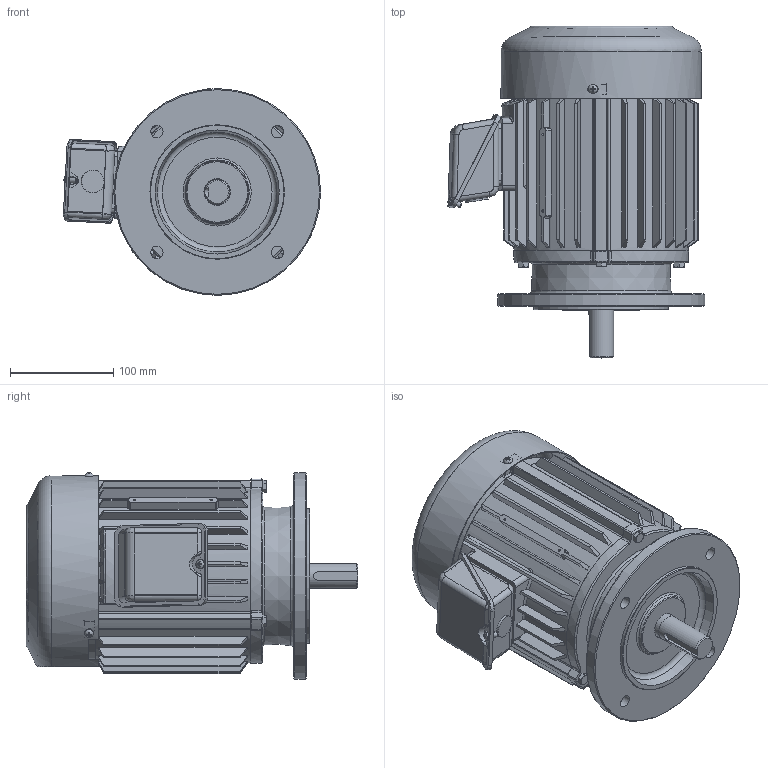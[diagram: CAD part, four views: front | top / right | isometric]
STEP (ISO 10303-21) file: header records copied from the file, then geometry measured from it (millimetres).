
FILE_DESCRIPTION(/* description */ ('Unknown'),/* implementation_level */ '2;1');
FILE_NAME(/* name */ '1-SMA-33828_외형도(160DIA)',/* time_stamp */ '2026-07-24T08:41:58+09:00',/* author */ ('Unknown'),/* organization */ ('Unknown'),/* preprocessor_version */ 'ST-DEVELOPER v16',/* originating_system */ 'DEX',/* authorisation */ $);
FILE_SCHEMA (('AUTOMOTIVE_DESIGN {1 0 10303 214 3 1 1}'));
Products named in the file (17): 1-SMA-33828_¿ÜÇüµµ(160DIxÆÖÄ³(; 2-SMA-30861_FRAME(160DIA); 3-SMA-30857_擅粽塭鰍(160D; 4-SMA-30854_µÚºê¶óÄÏ(160D´¾|·Ï(; 5-SMA-30862_SHAFT(160DIA); 6-SMA-31242_FAN(160DIA); 7-SMA-30643_FAN COVER(160DIA); 幫陝獐お M6x1x; 菅斬 褊濠 M5x0.8x; SMA33038,33039_攪嘐割 ; 8-SMA-33038_T-BOX(»ó)(120,140DIA)‘]j; 9-SMA-33039_T-BOX(ж)(120~140DIA); T-BOX 憶っ(120~160DIA; T-BOX 歜衛 馨檜綰斜楠萄(120~; 褊濠 菅斬 該葬 獐お M5x; 6205ZZ; 6204ZZ
Assembly tree (23 placements, depth 3):
  1-SMA-33828_¿ÜÇüµµ(160DIxÆÖÄ³(
    2-SMA-30861_FRAME(160DIA)
    3-SMA-30857_擅粽塭鰍(160D
    4-SMA-30854_µÚºê¶óÄÏ(160D´¾|·Ï(
    5-SMA-30862_SHAFT(160DIA)
    6-SMA-31242_FAN(160DIA)
    7-SMA-30643_FAN COVER(160DIA)
    幫陝獐お M6x1x  x6
    菅斬 褊濠 M5x0.8x  x3
    SMA33038,33039_攪嘐割 
      8-SMA-33038_T-BOX(»ó)(120,140DIA)‘]j
      9-SMA-33039_T-BOX(ж)(120~140DIA)
      T-BOX 憶っ(120~160DIA
      T-BOX 歜衛 馨檜綰斜楠萄(120~
      褊濠 菅斬 該葬 獐お M5x
    6205ZZ
    6204ZZ
Bounding box: 248.74 x 321 x 200 mm (x, y, z)
Volume: 1556711.1 mm3; surface area: 721399.3 mm2
Topology: 44 solids, 44 shells, 1605 faces, 4027 edges, 2565 vertices
Faces by surface type: plane 574, cylinder 522, cone 298, torus 154, bspline 37, sphere 20
Full cylindrical faces by diameter (mm): 2.2 x2, 4.134 x3, 4.917 x12, 5 x7, 6 x17, 8 x6, 9 x1, 12 x4, 18.2 x2, 19.8 x1, 20 x2, 20.6 x1, 22 x2, 24 x1, 24.8 x1, 25 x2, 25.1 x1, 25.6 x1, 27.5 x1, 27.714 x2, 28.114 x2, 32.714 x2, 33 x2, 33.114 x2, 35 x2, 38.886 x2, 39.286 x2, 43.886 x2, 44.286 x2, 45 x1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
Entity records: 58780 total; most frequent: CARTESIAN_POINT 21282, DIRECTION 7154, ORIENTED_EDGE 6848, EDGE_CURVE 3424, AXIS2_PLACEMENT_3D 2942, VERTEX_POINT 2294, FACE_BOUND 1838, EDGE_LOOP 1814
